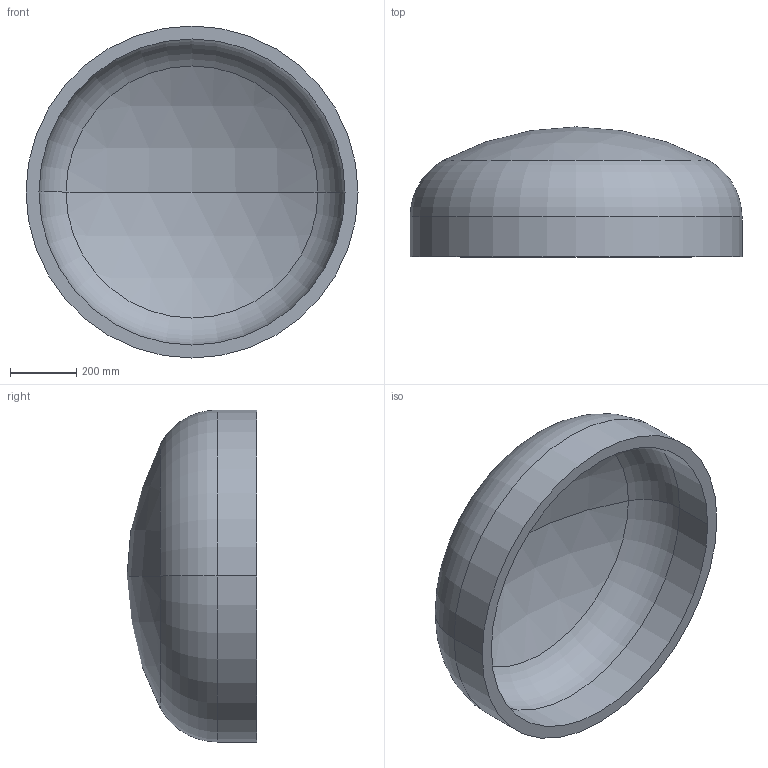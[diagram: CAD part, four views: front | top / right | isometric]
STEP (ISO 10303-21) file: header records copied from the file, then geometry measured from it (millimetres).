
FILE_DESCRIPTION (( 'STEP AP203' ), '1' );
FILE_NAME ('DIN 28013 Korbbogenform_-_Boden DIN 28013 - 1000 x 120 - I - s=39.step', '2016-07-01T08:48:25', ( '' ), ( '' ), 'SwSTEP 2.0', 'SolidWorks 2013', '' );
FILE_SCHEMA (( 'CONFIG_CONTROL_DESIGN' ));
Length unit declared in the file: millimetre
Products named in the file (1): DIN 28013 Korbbogenform_-_Boden DIN 28013 - 1000 x 120 - I - s=39
Bounding box: 1000 x 391.21 x 1000 mm (x, y, z)
Volume: 54513049.4 mm3; surface area: 2916469.6 mm2
Topology: 1 solids, 1 shells, 13 faces, 24 edges, 14 vertices
Faces by surface type: torus 4, cylinder 4, sphere 4, plane 1
Entity records: 407 total; most frequent: DIRECTION 72, CARTESIAN_POINT 52, ORIENTED_EDGE 48, AXIS2_PLACEMENT_3D 34, EDGE_CURVE 24, CIRCLE 20, VERTEX_POINT 14, EDGE_LOOP 14
